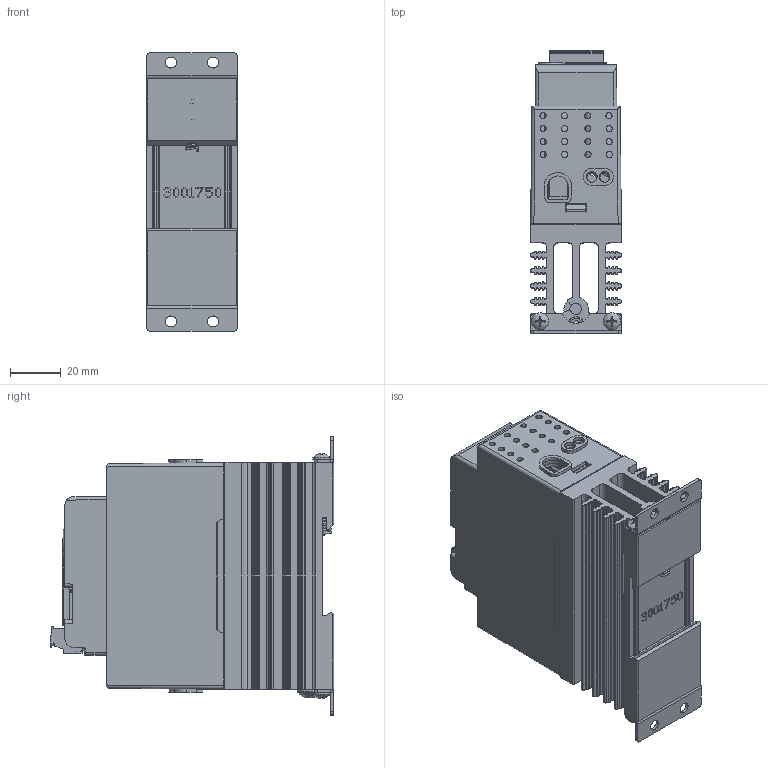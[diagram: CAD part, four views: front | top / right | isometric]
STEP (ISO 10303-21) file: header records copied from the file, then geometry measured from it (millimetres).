
FILE_DESCRIPTION(/* description */ (''),/* implementation_level */ '2;1');
FILE_NAME(/* name */ '1-phase Digital 25A w-mounting.stp',/* time_stamp */ '2024-10-29T13:49:36-05:00',/* author */ ('ErikG'),/* organization */ (''),/* preprocessor_version */ 'ST-DEVELOPER v20',/* originating_system */ 'Autodesk Inventor 2025',/* authorisation */ '');
FILE_SCHEMA (('AUTOMOTIVE_DESIGN { 1 0 10303 214 3 1 1 }'));
Products named in the file (25): 3001631e; 3001762; 1001592E; P6; fci 6 pin header OQ06120000J0G; fci 6 pin headerOQ06120000J0G half 1; fci 5 pin header OQ05120000J0G half 2; 0053035-0138-06; P4; P5; usb-c31-s-vt-cs4-bk-pp-t-r-model ADAMTECH; P2; 74990101210 (rev1); base; shielding; 3001759; 3001760; 3001755; 3001756; 3001750; 0060702-1032-0375; spring; 0060783-0610-010.ipt; 3001752; 0060002-0632-0375
Assembly tree (30 placements, depth 5):
  3001631e
    3001762
    1001592E
      P6
        fci 6 pin header OQ06120000J0G
          fci 6 pin headerOQ06120000J0G half 1
          fci 5 pin header OQ05120000J0G half 2
          0053035-0138-06
      P4
        74990101210 (rev1)
          base
          shielding
      P5
        usb-c31-s-vt-cs4-bk-pp-t-r-model ADAMTECH
      P2
        74990101210 (rev1)
          base
          shielding
    3001759
    3001760  x2
    3001755
    3001756
    3001750
    0060702-1032-0375
    spring
    0060783-0610-010.ipt
    3001752  x2
    0060002-0632-0375  x4
Bounding box: 35.56 x 111.14 x 109.22 mm (x, y, z)
Volume: 130127.4 mm3; surface area: 133380.5 mm2
Topology: 25 solids, 115 shells, 6360 faces, 17365 edges, 11343 vertices
Faces by surface type: plane 4723, cylinder 1162, cone 251, bspline 111, torus 90, sphere 23
Full cylindrical faces by diameter (mm): 0.254 x1, 0.45 x2, 0.55 x2, 0.65 x2, 1 x2, 2.3 x12, 2.54 x2, 2.642 x3, 2.95 x6, 3.277 x2, 3.505 x4, 4.318 x8, 4.826 x1, 4.917 x1, 6 x1, 6.172 x1, 6.858 x4, 7.976 x1, 9.474 x1
Entity records: 190754 total; most frequent: CARTESIAN_POINT 47662, ORIENTED_EDGE 30118, DIRECTION 28081, EDGE_CURVE 15059, LINE 11625, VECTOR 11625, VERTEX_POINT 9859, AXIS2_PLACEMENT_3D 8228
